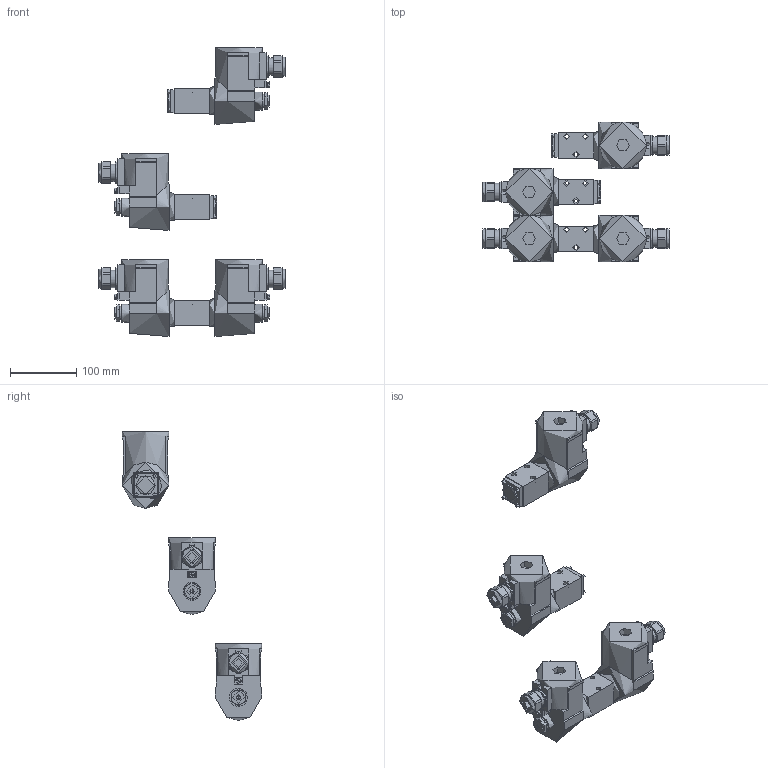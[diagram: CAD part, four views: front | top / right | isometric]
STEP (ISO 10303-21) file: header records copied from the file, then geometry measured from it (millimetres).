
FILE_DESCRIPTION(('Bauteilbeschreibung','HiCAD-Model','HiCAD-STEP-TRANSLATION','Bauteilbeschreibung'),'2;1');
FILE_NAME('K:/STEP_DXF/BEXD4_4_-S1788.STP','2006-07-24T11:11:54+00:00',('Konstrukteur'),('Konstrukteur Firma GmbH'),'HiCAD3 V1210 STEP 1.6.2005','HiCAD3 V1210','confidential');
FILE_SCHEMA(('AUTOMOTIVE_DESIGN { 1 2 10303 214 0 1 1 1 }'));
Length unit declared in the file: millimetre
Products named in the file (28): BEXD4_4__S1788; BEXD4D4__S1788; A11BEED6; A5E16FAE; A4F30F1C; A4F30F1C0; BEXD4Z4_A_S1788; AFD5A5C1; A5E16FAE0; AA75327F; AA75327F0; IN6KTM4; IN6KTM40; IN6KTM41; IN6KTM42; IN6KTM43; A4F30F1C1; BEXD4Z4_B_S1788; ABD5DC91; A5E16FAE1; AA75327F1; AA75327F2; IN6KTM44; IN6KTM45; IN6KTM46; IN6KTM47; IN6KTM48; A4F30F1C2
Assembly tree (27 placements, depth 6):
  BEXD4_4__S1788
    BEXD4D4__S1788
      A11BEED6
        A5E16FAE
        A4F30F1C
        A4F30F1C0
    BEXD4Z4_A_S1788
      AFD5A5C1
        A5E16FAE0
        AA75327F
        AA75327F0
          IN6KTM4
            IN6KTM40
            IN6KTM41
            IN6KTM42
            IN6KTM43
        A4F30F1C1
    BEXD4Z4_B_S1788
      ABD5DC91
        A5E16FAE1
        AA75327F1
        AA75327F2
          IN6KTM44
            IN6KTM45
            IN6KTM46
            IN6KTM47
            IN6KTM48
        A4F30F1C2
Bounding box: 281.4 x 210 x 436 mm (x, y, z)
Topology: 17 solids, 21 shells, 777 faces, 1918 edges, 1285 vertices
Faces by surface type: plane 516, cylinder 187, cone 74
Full cylindrical faces by diameter (mm): 4 x24, 4.5 x8, 5.5 x9, 7 x12, 8.5 x19, 9.5 x9, 14 x4, 18 x4, 21.5 x4, 22 x4, 26.4 x4, 27 x4, 29 x4, 30 x2, 47.6 x4, 70 x8
Entity records: 45647 total; most frequent: CARTESIAN_POINT 13131, DIRECTION 3654, ORIENTED_EDGE 3312, COLOUR_RGB 2450, PRESENTATION_STYLE_ASSIGNMENT 2450, OVER_RIDING_STYLED_ITEM 2433, CURVE_STYLE 1656, DRAUGHTING_PRE_DEFINED_CURVE_FONT 1656
